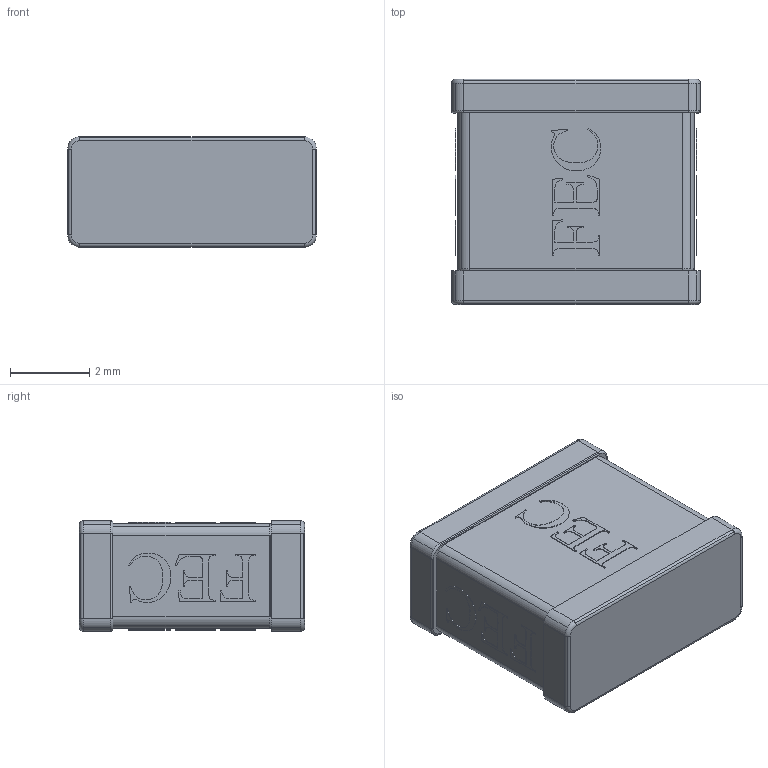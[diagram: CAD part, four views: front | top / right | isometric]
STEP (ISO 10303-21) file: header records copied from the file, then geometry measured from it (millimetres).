
FILE_DESCRIPTION(('STEP AP214'),'1');
FILE_NAME('tmp0.step','2023-08-07T01:37:10',(' '),(' '),'Spatial InterOp 3D',' ',' ');
FILE_SCHEMA(('AUTOMOTIVE_DESIGN { 1 0 10303 214 1 1 1 1 }'));
Length unit declared in the file: millimetre
Products named in the file (1): 1
Bounding box: 6.3 x 5.7 x 2.8 mm (x, y, z)
Volume: 93.2 mm3; surface area: 206.5 mm2
Topology: 15 solids, 15 shells, 1102 faces, 3184 edges, 2112 vertices
Faces by surface type: plane 1030, cylinder 56, torus 16
Entity records: 35714 total; most frequent: CARTESIAN_POINT 6413, ORIENTED_EDGE 6368, DIRECTION 5546, EDGE_CURVE 3184, LINE 3056, VECTOR 3056, VERTEX_POINT 2112, AXIS2_PLACEMENT_3D 1245
